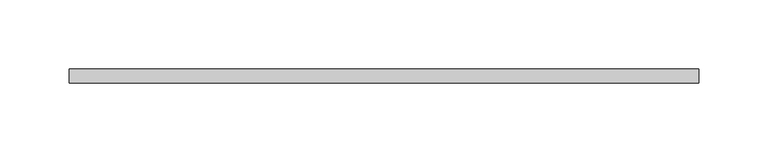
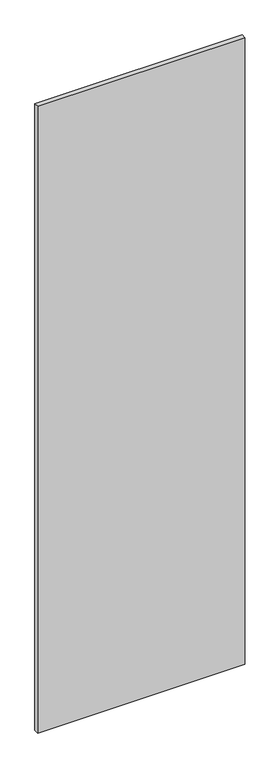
"""IFC4 building model written with IfcOpenShell, lengths in millimetres: plate geometry, Panel Flex Glassline_10mm : Panel Flex Glassline_10mm."""

import ifcopenshell
import ifcopenshell.guid

model = None  # the IFC model being written
_history = None  # IfcOwnerHistory: only IFC2X3 demands one
_inside = {}  # id of a spatial element -> (the spatial element, [elements in it])
_under = {}  # id of a project, library or spatial element -> (it, [spatial elements below it])
_declared = {}  # id of a project -> (the project, [libraries it declares])
_typed = {}  # id of a type object -> (the type object, [elements of that type])
_made_of = {}  # id of a material, layer set ... -> (it, [elements and type objects made of it])


def new_model(schema):
    """Start an empty IFC model of exactly this schema.

    Asked for "IFC4X3", IfcOpenShell would pick the latest addendum, in which some entities
    have other attributes; the version numbers below select the first issue.
    IFC2X3 requires an IfcOwnerHistory on every rooted entity: one is made here for all.
    """
    global model, _history
    if schema == "IFC4X3":
        model = ifcopenshell.file(schema_version=(4, 3, 0, 0))
    else:
        model = ifcopenshell.file(schema=schema)
    _inside.clear()
    _under.clear()
    _declared.clear()
    _typed.clear()
    _made_of.clear()
    _history = None
    if model.schema == "IFC2X3":
        org = make("IfcOrganization", Name="unknown")
        user = make(
            "IfcPersonAndOrganization",
            ThePerson=make("IfcPerson", FamilyName="unknown"),
            TheOrganization=org,
        )
        app = make(
            "IfcApplication",
            ApplicationDeveloper=org,
            Version="unknown",
            ApplicationFullName="unknown",
            ApplicationIdentifier="unknown",
        )
        _history = make(
            "IfcOwnerHistory",
            OwningUser=user,
            OwningApplication=app,
            ChangeAction="ADDED",
            CreationDate=0,
        )
    return model


def make(cls, **values):
    """One entity of the class cls with the attributes given. An attribute that is None is left unset."""
    return model.create_entity(
        cls, **{name: value for name, value in values.items() if value is not None}
    )


def rooted(cls, **values):
    """An entity with a GlobalId (a new one), such as an element, a storey or a relation."""
    return make(cls, GlobalId=ifcopenshell.guid.new(), OwnerHistory=_history, **values)


def si_unit(unit_type, name, prefix=None):
    """IfcSIUnit, for example si_unit("LENGTHUNIT", "METRE", prefix="MILLI")."""
    return make("IfcSIUnit", UnitType=unit_type, Prefix=prefix, Name=name)


def assignment(units):
    """IfcUnitAssignment: the units of a project."""
    return None if units is None else make("IfcUnitAssignment", Units=units)


def point(xyz):
    """IfcCartesianPoint."""
    return None if xyz is None else make("IfcCartesianPoint", Coordinates=xyz)


def direction(xyz):
    """IfcDirection."""
    return None if xyz is None else make("IfcDirection", DirectionRatios=xyz)


def frame(location, z_axis=None, x_axis=None):
    """IfcAxis2Placement3D, a coordinate frame: its origin and axes. An axis left out is left unset."""
    return make(
        "IfcAxis2Placement3D",
        Location=point(location),
        Axis=direction(z_axis),
        RefDirection=direction(x_axis),
    )


def origin():
    """The frame at (0, 0, 0) with its axes left unset."""
    return frame((0.0, 0.0, 0.0))


def origin_with_axes():
    """The frame at (0, 0, 0) with the z axis (0, 0, 1) and the x axis (1, 0, 0) written out."""
    return frame((0.0, 0.0, 0.0), z_axis=(0.0, 0.0, 1.0), x_axis=(1.0, 0.0, 0.0))


def place(relative_to, where):
    """IfcLocalPlacement: puts the frame where relative to a parent placement (None: the world)."""
    return make(
        "IfcLocalPlacement", PlacementRelTo=relative_to, RelativePlacement=where
    )


def context(
    kind, dimensions, precision=None, world=None, true_north=None, identifier=None
):
    """IfcGeometricRepresentationContext, for example the 3D "Model" context."""
    return make(
        "IfcGeometricRepresentationContext",
        ContextIdentifier=identifier,
        ContextType=kind,
        CoordinateSpaceDimension=dimensions,
        Precision=precision,
        WorldCoordinateSystem=world,
        TrueNorth=true_north,
    )


def project(units=None, contexts=None):
    """IfcProject with its units and contexts."""
    return rooted(
        "IfcProject",
        Name="project",
        RepresentationContexts=contexts,
        UnitsInContext=assignment(units),
    )


def spatial(cls, under=None, at=None, **own):
    """A site, building, storey or space (cls), placed at a placement, below another one or the project."""
    s = rooted(cls, ObjectPlacement=at, **own)
    if under is not None:
        _under.setdefault(under.id(), (under, []))[1].append(s)
    return s


def polyline(points):
    """IfcPolyline through the points."""
    return make("IfcPolyline", Points=[point(p) for p in points])


def outline(outer, holes=None, kind="AREA"):
    """IfcArbitraryClosedProfileDef: a profile drawn as a closed curve; with holes, ...WithVoids."""
    if holes is None:
        return make("IfcArbitraryClosedProfileDef", ProfileType=kind, OuterCurve=outer)
    return make(
        "IfcArbitraryProfileDefWithVoids",
        ProfileType=kind,
        OuterCurve=outer,
        InnerCurves=holes,
    )


def extrude(swept, where, along, depth):
    """IfcExtrudedAreaSolid: the profile swept, set in the frame where, extruded along a direction by depth."""
    return make(
        "IfcExtrudedAreaSolid",
        SweptArea=swept,
        Position=where,
        ExtrudedDirection=direction(along),
        Depth=depth,
    )


def shape(context_of_items, identifier, shape_type, items):
    """IfcShapeRepresentation: the items that make up one representation, for example the "Body"."""
    return make(
        "IfcShapeRepresentation",
        ContextOfItems=context_of_items,
        RepresentationIdentifier=identifier,
        RepresentationType=shape_type,
        Items=items,
    )


def source(mapping_origin, context_of_items, identifier, shape_type, items):
    """IfcRepresentationMap: a shape defined once, which mapped items show again and again."""
    return make(
        "IfcRepresentationMap",
        MappingOrigin=mapping_origin,
        MappedRepresentation=shape(context_of_items, identifier, shape_type, items),
    )


def transform(
    local_origin,
    x_axis=None,
    y_axis=None,
    z_axis=None,
    scale=None,
    scale2=None,
    scale3=None,
    uniform=True,
):
    """IfcCartesianTransformationOperator3D, or its non-uniform kind. x_axis, y_axis, z_axis: its Axis1, 2, 3."""
    if uniform:
        return make(
            "IfcCartesianTransformationOperator3D",
            Axis1=direction(x_axis),
            Axis2=direction(y_axis),
            LocalOrigin=point(local_origin),
            Scale=scale,
            Axis3=direction(z_axis),
        )
    return make(
        "IfcCartesianTransformationOperator3DnonUniform",
        Axis1=direction(x_axis),
        Axis2=direction(y_axis),
        LocalOrigin=point(local_origin),
        Scale=scale,
        Axis3=direction(z_axis),
        Scale2=scale2,
        Scale3=scale3,
    )


def mapped(mapping_source, mapping_target):
    """IfcMappedItem: shows the shape of a source again, moved by a transform."""
    return make(
        "IfcMappedItem", MappingSource=mapping_source, MappingTarget=mapping_target
    )


def made_of(thing, what):
    """Note that an element or type object is made of a material, layer set ...; save() writes the relation."""
    if what is not None:
        _made_of.setdefault(what.id(), (what, []))[1].append(thing)
    return thing


def element(
    cls,
    number,
    at=None,
    inside=None,
    cuts=None,
    type_object=None,
    material=None,
    context=None,
    identifier="Body",
    shape_type=None,
    held_by="IfcProductDefinitionShape",
    body=None,
    shapes=None,
    **own,
):
    """One element of the class cls, such as IfcWall. Its Tag is "e" and its number.

    at: its placement. inside: the storey or other place that contains it. cuts: it is an
    opening in that element (IfcRelVoidsElement). A single representation is given by context,
    identifier, shape_type and body (its items); several are given by shapes. held_by: the class
    of the entity that holds the representations. save() writes the other relations.
    """
    e = rooted(cls, Tag="e%d" % number, ObjectPlacement=at, **own)
    if body is not None:
        shapes = [shape(context, identifier, shape_type, body)]
    if shapes is not None:
        e.Representation = make(held_by, Representations=shapes)
    if inside is not None:
        _inside.setdefault(inside.id(), (inside, []))[1].append(e)
    if cuts is not None:
        rooted(
            "IfcRelVoidsElement", RelatingBuildingElement=cuts, RelatedOpeningElement=e
        )
    if type_object is not None:
        _typed.setdefault(type_object.id(), (type_object, []))[1].append(e)
    return made_of(e, material)


def aggregate(whole, parts):
    """IfcRelAggregates: a whole, such as a stair, and the parts it consists of."""
    return rooted("IfcRelAggregates", RelatingObject=whole, RelatedObjects=parts)


def save(model, path):
    """Write the relations noted so far, then the file.

    IfcRelAggregates (storeys below a building ...), IfcRelContainedInSpatialStructure (elements
    in a storey), IfcRelDefinesByType, IfcRelAssociatesMaterial and IfcRelDeclares: one each for
    every whole, place, type object, material and project.
    """
    for whole, parts in _under.values():
        aggregate(whole, parts)
    for where, things in _inside.values():
        rooted(
            "IfcRelContainedInSpatialStructure",
            RelatedElements=things,
            RelatingStructure=where,
        )
    for kind, things in _typed.values():
        rooted("IfcRelDefinesByType", RelatedObjects=things, RelatingType=kind)
    for what, things in _made_of.values():
        rooted("IfcRelAssociatesMaterial", RelatedObjects=things, RelatingMaterial=what)
    for by, libraries in _declared.values():
        rooted("IfcRelDeclares", RelatingContext=by, RelatedDefinitions=libraries)
    model.write(path)


def plate_a6297edd(model_context):
    return source(origin(), model_context, "Body", "SweptSolid", [
        extrude(outline(polyline([(226.3982716, 12.4), (226.3982716, 2.4), (-226.3982716, 2.4), (-226.3982716, 12.4), (226.3982716, 12.4)])), origin_with_axes(), (0.0, 0.0, 1.0), 1447.0033917),
    ])


if __name__ == "__main__":
    model = new_model("IFC4")
    model_context = context("Model", 3, world=origin())
    ifc_project = project(units=[si_unit("LENGTHUNIT", "METRE", prefix="MILLI")], contexts=[model_context])
    site = spatial("IfcSite", under=ifc_project)
    building = spatial("IfcBuilding", under=site)
    placement = place(None, origin())
    plate_shape = plate_a6297edd(model_context)
    element("IfcPlate", 1, ObjectType="Panel Flex Glassline_10mm : Panel Flex Glassline_10mm", at=placement, inside=building, context=model_context, shape_type="MappedRepresentation", body=[
        mapped(plate_shape, transform((0.0, 0.0, 0.0), x_axis=(1.0, 0.0, 0.0), y_axis=(0.0, 1.0, 0.0), z_axis=(0.0, 0.0, 1.0))),
    ])
    save(model, "model.ifc")
